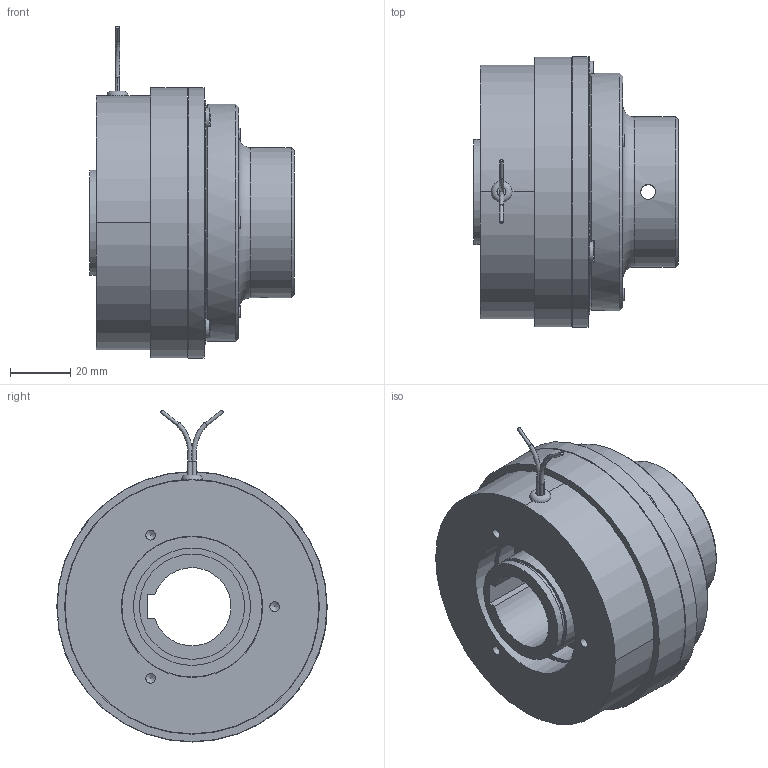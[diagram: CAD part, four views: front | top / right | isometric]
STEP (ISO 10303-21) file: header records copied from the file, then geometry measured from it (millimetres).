
FILE_DESCRIPTION(/* description */ (''),/* implementation_level */ '2;1');
FILE_NAME(/* name */ 'X:\INVENTOR\DISEGNI\08_Freni_Friz_Elettmag_Monodisco\08_26 EMSL_DF\EMSL_DF STEP\08_26_090_22 EMSL090_DF-BM-ME@STEP.stp',/* time_stamp */ '2018-04-24T08:56:40+02:00',/* author */ ('stefano'),/* organization */ (''),/* preprocessor_version */ 'ST-DEVELOPER v17',/* originating_system */ 'Autodesk Inventor 2018',/* authorisation */ '');
FILE_SCHEMA (('AUTOMOTIVE_DESIGN { 1 0 10303 214 3 1 1 }'));
Length unit declared in the file: millimetre
Products named in the file (1): 08_26_090_22 EMSL090_DF-BM-ME_Substitute_1
Bounding box: 68 x 90 x 110.47 mm (x, y, z)
Volume: 221788.7 mm3; surface area: 68270 mm2
Topology: 4 solids, 4 shells, 249 faces, 684 edges, 478 vertices
Faces by surface type: cylinder 137, plane 81, cone 24, torus 5, bspline 2
Full cylindrical faces by diameter (mm): 1.154 x2, 1.5 x4, 3.242 x3, 4.917 x2, 5 x3, 5.1 x6, 6 x1, 7 x3, 8 x3, 9.5 x3, 33 x1, 35 x2, 39 x1, 46.7 x1, 47 x2, 49.5 x1, 50 x1, 54 x1, 79 x1, 80 x1, 84.8 x1, 89.8 x1, 90 x1
Entity records: 8906 total; most frequent: CARTESIAN_POINT 1826, DIRECTION 1548, ORIENTED_EDGE 1358, EDGE_CURVE 679, AXIS2_PLACEMENT_3D 664, VERTEX_POINT 479, CIRCLE 416, EDGE_LOOP 333
